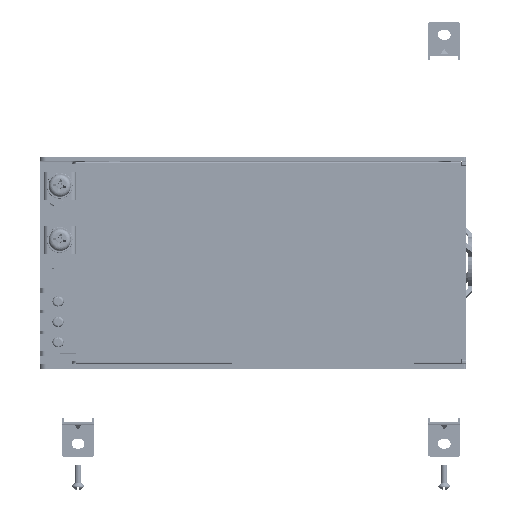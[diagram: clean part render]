
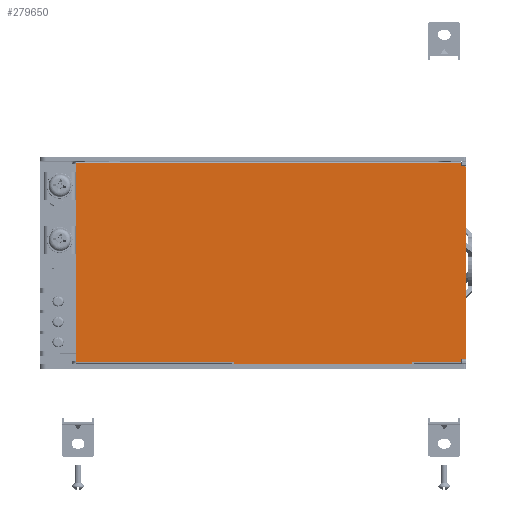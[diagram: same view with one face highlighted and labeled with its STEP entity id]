
A CAD part, top view. The second image highlights one B-rep face of the part: STEP entity #279650.
In plain terms, the highlighted planar face has unit normal (0, 0, 1) as drawn and (0, 1, 0) by its records, which use the part's own axes.
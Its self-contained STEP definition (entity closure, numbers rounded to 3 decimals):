
#271480=CARTESIAN_POINT('',(174.025,29.,47.25));
#271490=DIRECTION('',(0.,0.,-1.));
#271500=VECTOR('',#271490,1.);
#271510=LINE('',#271480,#271500);
#271520=CARTESIAN_POINT('',(174.025,29.,47.25));
#271530=VERTEX_POINT('',#271520);
#271540=CARTESIAN_POINT('',(174.025,29.,46.25));
#271550=VERTEX_POINT('',#271540);
#271560=EDGE_CURVE('',#271530,#271550,#271510,.T.);
#273980=CARTESIAN_POINT('',(91.025,29.,47.25));
#273990=DIRECTION('',(1.,0.,0.));
#274000=VECTOR('',#273990,1.);
#274010=LINE('',#273980,#274000);
#274020=CARTESIAN_POINT('',(91.025,29.,47.25));
#274030=VERTEX_POINT('',#274020);
#274040=EDGE_CURVE('',#274030,#271530,#274010,.T.);
#275720=CARTESIAN_POINT('',(16.8,29.,-46.55));
#275730=VERTEX_POINT('',#275720);
#275760=CARTESIAN_POINT('',(16.8,29.,-46.55));
#275770=DIRECTION('',(0.,0.,1.));
#275780=VECTOR('',#275770,1.);
#275790=LINE('',#275760,#275780);
#275800=CARTESIAN_POINT('',(16.8,29.,46.55));
#275810=VERTEX_POINT('',#275800);
#275820=EDGE_CURVE('',#275730,#275810,#275790,.T.);
#276480=CARTESIAN_POINT('',(196.8,29.,-45.1));
#276490=VERTEX_POINT('',#276480);
#276520=CARTESIAN_POINT('',(196.8,29.,-46.636));
#276530=DIRECTION('',(0.,0.,1.));
#276540=VECTOR('',#276530,1.);
#276550=LINE('',#276520,#276540);
#276560=CARTESIAN_POINT('',(196.8,29.,-46.55));
#276570=VERTEX_POINT('',#276560);
#276580=EDGE_CURVE('',#276570,#276490,#276550,.T.);
#276890=CARTESIAN_POINT('',(90.025,29.,46.25));
#276900=VERTEX_POINT('',#276890);
#276930=CARTESIAN_POINT('',(0.,29.,46.25));
#276940=DIRECTION('',(1.,0.,0.));
#276950=VECTOR('',#276940,1.);
#276960=LINE('',#276930,#276950);
#276970=CARTESIAN_POINT('',(91.025,29.,46.25));
#276980=VERTEX_POINT('',#276970);
#276990=EDGE_CURVE('',#276900,#276980,#276960,.T.);
#278520=CARTESIAN_POINT('',(16.8,29.,-46.55));
#278530=DIRECTION('',(1.,0.,0.));
#278540=VECTOR('',#278530,1.);
#278550=LINE('',#278520,#278540);
#278560=EDGE_CURVE('',#275730,#276570,#278550,.T.);
#278640=CARTESIAN_POINT('',(0.,29.,0.));
#278650=DIRECTION('',(0.,1.,-0.));
#278660=DIRECTION('',(-1.,0.,0.));
#278670=AXIS2_PLACEMENT_3D('',#278640,#278650,#278660);
#278680=PLANE('',#278670);
#278690=CARTESIAN_POINT('',(175.025,29.,0.));
#278700=DIRECTION('',(0.,0.,1.));
#278710=VECTOR('',#278700,1.);
#278720=LINE('',#278690,#278710);
#278730=CARTESIAN_POINT('',(175.025,29.,46.25));
#278740=VERTEX_POINT('',#278730);
#278750=CARTESIAN_POINT('',(175.025,29.,46.55));
#278760=VERTEX_POINT('',#278750);
#278770=EDGE_CURVE('',#278740,#278760,#278720,.T.);
#278780=ORIENTED_EDGE('',*,*,#278770,.T.);
#278790=CARTESIAN_POINT('',(0.,29.,46.25));
#278800=DIRECTION('',(1.,0.,0.));
#278810=VECTOR('',#278800,1.);
#278820=LINE('',#278790,#278810);
#278830=EDGE_CURVE('',#271550,#278740,#278820,.T.);
#278840=ORIENTED_EDGE('',*,*,#278830,.T.);
#278850=ORIENTED_EDGE('',*,*,#271560,.T.);
#278860=ORIENTED_EDGE('',*,*,#274040,.T.);
#278870=CARTESIAN_POINT('',(91.025,29.,41.25));
#278880=DIRECTION('',(0.,0.,1.));
#278890=VECTOR('',#278880,1.);
#278900=LINE('',#278870,#278890);
#278910=EDGE_CURVE('',#276980,#274030,#278900,.T.);
#278920=ORIENTED_EDGE('',*,*,#278910,.T.);
#278930=ORIENTED_EDGE('',*,*,#276990,.T.);
#278940=CARTESIAN_POINT('',(90.025,29.,0.));
#278950=DIRECTION('',(0.,0.,-1.));
#278960=VECTOR('',#278950,1.);
#278970=LINE('',#278940,#278960);
#278980=CARTESIAN_POINT('',(90.025,29.,46.55));
#278990=VERTEX_POINT('',#278980);
#279000=EDGE_CURVE('',#278990,#276900,#278970,.T.);
#279010=ORIENTED_EDGE('',*,*,#279000,.T.);
#279020=CARTESIAN_POINT('',(196.1,29.,46.55));
#279030=DIRECTION('',(-1.,0.,0.));
#279040=VECTOR('',#279030,1.);
#279050=LINE('',#279020,#279040);
#279060=EDGE_CURVE('',#278990,#275810,#279050,.T.);
#279070=ORIENTED_EDGE('',*,*,#279060,.F.);
#279080=ORIENTED_EDGE('',*,*,#275820,.T.);
#279090=ORIENTED_EDGE('',*,*,#278560,.F.);
#279100=ORIENTED_EDGE('',*,*,#276580,.F.);
#279110=CARTESIAN_POINT('',(199.,29.,-45.1));
#279120=DIRECTION('',(-1.,0.,0.));
#279130=VECTOR('',#279120,1.);
#279140=LINE('',#279110,#279130);
#279150=CARTESIAN_POINT('',(198.5,29.,-45.1));
#279160=VERTEX_POINT('',#279150);
#279170=EDGE_CURVE('',#279160,#276490,#279140,.T.);
#279180=ORIENTED_EDGE('',*,*,#279170,.T.);
#279190=CARTESIAN_POINT('',(198.5,29.,-44.6));
#279200=DIRECTION('',(0.,1.,0.));
#279210=DIRECTION('',(1.,0.,0.));
#279220=AXIS2_PLACEMENT_3D('',#279190,#279200,#279210);
#279230=CIRCLE('',#279220,0.5);
#279240=CARTESIAN_POINT('',(199.,29.,-44.6));
#279250=VERTEX_POINT('',#279240);
#279260=EDGE_CURVE('',#279250,#279160,#279230,.T.);
#279270=ORIENTED_EDGE('',*,*,#279260,.T.);
#279280=CARTESIAN_POINT('',(199.,29.,45.1));
#279290=DIRECTION('',(0.,0.,-1.));
#279300=VECTOR('',#279290,1.);
#279310=LINE('',#279280,#279300);
#279320=CARTESIAN_POINT('',(199.,29.,44.6));
#279330=VERTEX_POINT('',#279320);
#279340=EDGE_CURVE('',#279330,#279250,#279310,.T.);
#279350=ORIENTED_EDGE('',*,*,#279340,.T.);
#279360=CARTESIAN_POINT('',(198.5,29.,44.6));
#279370=DIRECTION('',(0.,-1.,0.));
#279380=DIRECTION('',(-1.,0.,0.));
#279390=AXIS2_PLACEMENT_3D('',#279360,#279370,#279380);
#279400=CIRCLE('',#279390,0.5);
#279410=CARTESIAN_POINT('',(198.5,29.,45.1));
#279420=VERTEX_POINT('',#279410);
#279430=EDGE_CURVE('',#279330,#279420,#279400,.T.);
#279440=ORIENTED_EDGE('',*,*,#279430,.F.);
#279450=CARTESIAN_POINT('',(196.1,29.,45.1));
#279460=DIRECTION('',(1.,0.,0.));
#279470=VECTOR('',#279460,1.);
#279480=LINE('',#279450,#279470);
#279490=CARTESIAN_POINT('',(196.8,29.,45.1));
#279500=VERTEX_POINT('',#279490);
#279510=EDGE_CURVE('',#279500,#279420,#279480,.T.);
#279520=ORIENTED_EDGE('',*,*,#279510,.T.);
#279530=CARTESIAN_POINT('',(196.8,29.,46.55));
#279540=VERTEX_POINT('',#279530);
#279550=EDGE_CURVE('',#279500,#279540,#276550,.T.);
#279560=ORIENTED_EDGE('',*,*,#279550,.F.);
#279570=CARTESIAN_POINT('',(0.,29.,46.55));
#279580=DIRECTION('',(1.,0.,0.));
#279590=VECTOR('',#279580,1.);
#279600=LINE('',#279570,#279590);
#279610=EDGE_CURVE('',#278760,#279540,#279600,.T.);
#279620=ORIENTED_EDGE('',*,*,#279610,.T.);
#279630=EDGE_LOOP('',(#279620,#279560,#279520,#279440,#279350,#279270,
#279180,#279100,#279090,#279080,#279070,#279010,#278930,#278920,#278860,
#278850,#278840,#278780));
#279640=FACE_OUTER_BOUND('',#279630,.T.);
#279650=ADVANCED_FACE('',(#279640),#278680,.T.);
